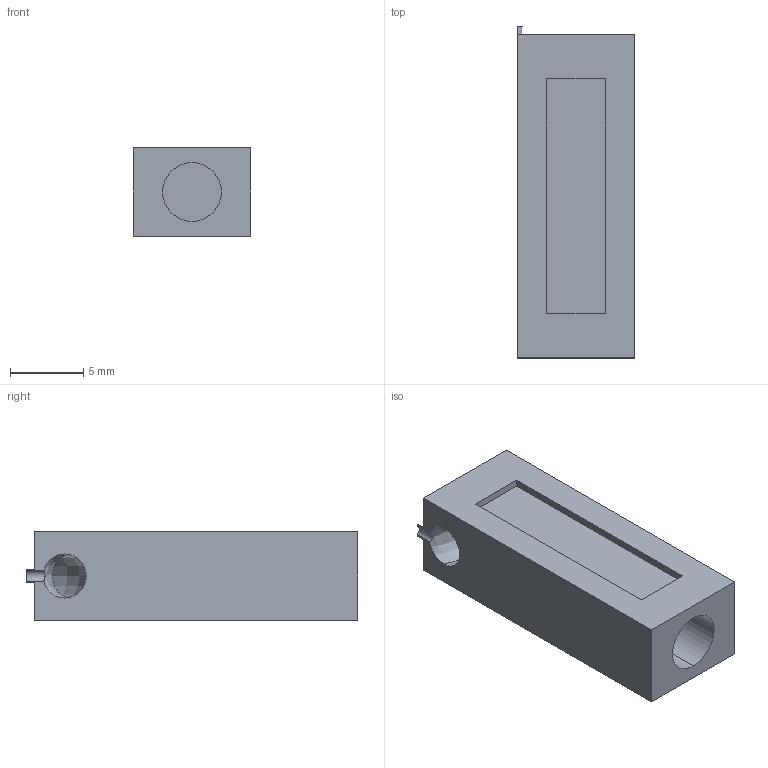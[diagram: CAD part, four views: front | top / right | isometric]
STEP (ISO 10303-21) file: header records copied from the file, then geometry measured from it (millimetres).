
FILE_DESCRIPTION (( 'STEP AP214' ), '1' );
FILE_NAME ('BR1060-8x6x22x0,8.STEP', '2020-06-22T12:42:18', ( '' ), ( '' ), 'SwSTEP 2.0', 'SolidWorks 2018', '' );
FILE_SCHEMA (( 'AUTOMOTIVE_DESIGN' ));
Length unit declared in the file: millimetre
Products named in the file (1): BR1060-8x6x22x0,8
Bounding box: 8 x 22.6 x 6 mm (x, y, z)
Volume: 785.3 mm3; surface area: 964.5 mm2
Topology: 1 solids, 1 shells, 24 faces, 60 edges, 40 vertices
Faces by surface type: plane 18, cylinder 4, bspline 2
Entity records: 965 total; most frequent: CARTESIAN_POINT 359, ORIENTED_EDGE 120, DIRECTION 109, EDGE_CURVE 60, LINE 45, VECTOR 45, VERTEX_POINT 40, AXIS2_PLACEMENT_3D 32
